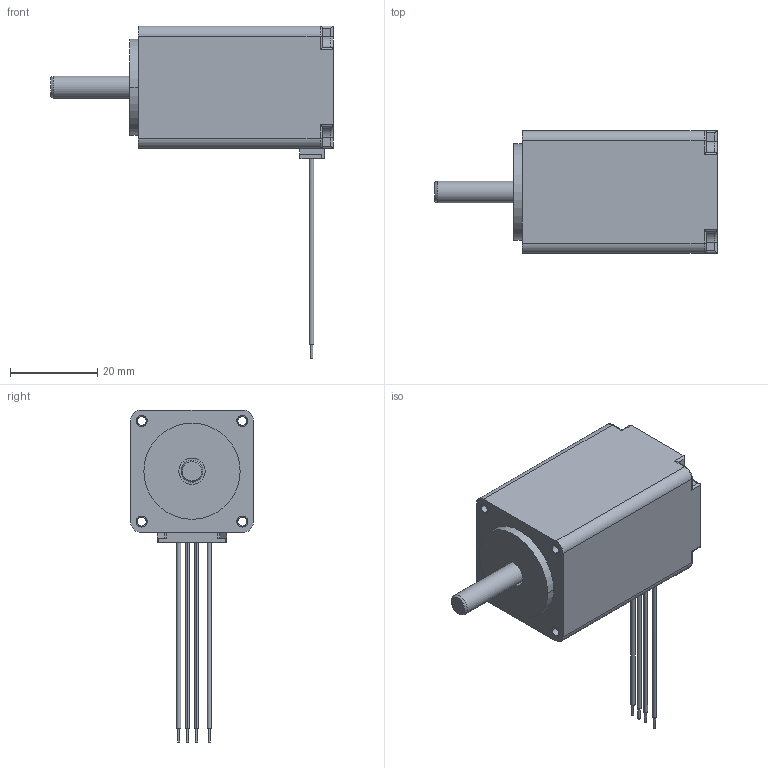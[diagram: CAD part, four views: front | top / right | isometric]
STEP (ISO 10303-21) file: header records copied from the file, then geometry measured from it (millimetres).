
FILE_DESCRIPTION( ('This file contains a STEP AP42 implementation' ,'as created by ZW3D STEP Interface translator.' ,'') ,'2;1' );
FILE_NAME( '28H45H-0XXXA-XXX.stp' ,'26 114.151456', (''), ('ZWCAD Software Co.'), 'Version 1.0', 'ZW3D to STEP translator', '' );
FILE_SCHEMA(('AUTOMOTIVE_DESIGN { 1 0 10303 214 1 1 1 1 }'));
Length unit declared in the file: millimetre
Products named in the file (1): 0
Bounding box: 64.55 x 28 x 75.9 mm (x, y, z)
Volume: 19236.9 mm3; surface area: 21718.1 mm2
Topology: 1 solids, 5 shells, 943 faces, 2882 edges, 1799 vertices
Faces by surface type: plane 610, cylinder 296, torus 23, cone 10, bspline 4
Full cylindrical faces by diameter (mm): 0.5 x7, 1 x2, 1.4 x8, 2.8 x4, 3 x4, 4.2 x1, 5 x1, 6 x2, 7 x1, 8 x2, 8.5 x1, 10 x1, 10.5 x1, 14 x1, 16.9 x1
Entity records: 33530 total; most frequent: CARTESIAN_POINT 6089, ORIENTED_EDGE 5748, DIRECTION 5512, EDGE_CURVE 2882, VECTOR 2020, LINE 2020, VERTEX_POINT 1799, AXIS2_PLACEMENT_3D 1746
